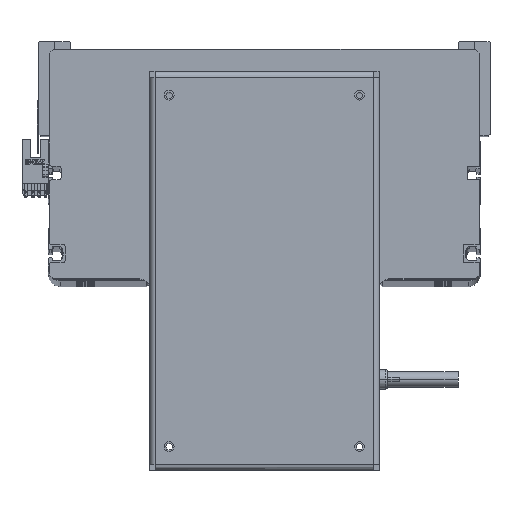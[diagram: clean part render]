
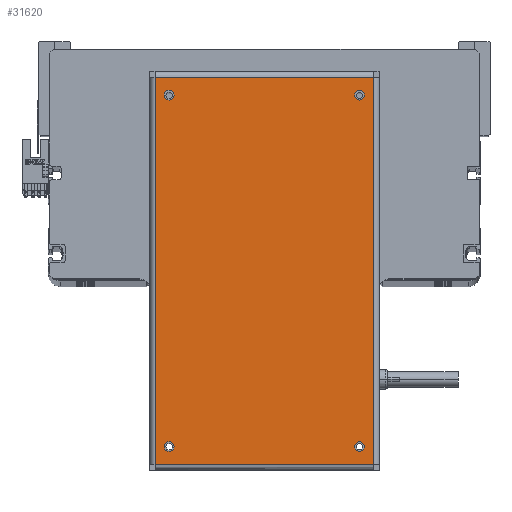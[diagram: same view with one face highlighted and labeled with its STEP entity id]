
A CAD part, top view. The second image highlights one B-rep face of the part: STEP entity #31620.
In plain terms, the highlighted planar face has unit normal (0, 0, 1).
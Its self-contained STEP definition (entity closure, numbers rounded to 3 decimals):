
#58 = DIRECTION ( 'NONE',  ( 0., 1., 0. ) ) ;
#434 = CARTESIAN_POINT ( 'NONE',  ( 87.05, -48.5, 0. ) ) ;
#826 = ORIENTED_EDGE ( 'NONE', *, *, #41818, .F. ) ;
#1292 = ORIENTED_EDGE ( 'NONE', *, *, #24509, .F. ) ;
#1419 = CARTESIAN_POINT ( 'NONE',  ( -89.55, -48.5, 0. ) ) ;
#1562 = AXIS2_PLACEMENT_3D ( 'NONE', #1419, #34039, #37380 ) ;
#1739 = CIRCLE ( 'NONE', #37982, 2.5 ) ;
#2236 = EDGE_CURVE ( 'NONE', #5288, #4017, #30035, .T. ) ;
#2973 = LINE ( 'NONE', #6407, #17988 ) ;
#3416 = CARTESIAN_POINT ( 'NONE',  ( 92.05, 48.5, 0. ) ) ;
#3631 = CARTESIAN_POINT ( 'NONE',  ( -98.65, 55.6, 0. ) ) ;
#3699 = VECTOR ( 'NONE', #8705, 1000. ) ;
#3783 = FACE_OUTER_BOUND ( 'NONE', #30748, .T. ) ;
#3828 = ORIENTED_EDGE ( 'NONE', *, *, #5207, .T. ) ;
#4017 = VERTEX_POINT ( 'NONE', #3631 ) ;
#4029 = LINE ( 'NONE', #38768, #34510 ) ;
#4253 = AXIS2_PLACEMENT_3D ( 'NONE', #8735, #31843, #12062 ) ;
#5207 = EDGE_CURVE ( 'NONE', #4017, #18280, #4029, .T. ) ;
#5227 = EDGE_CURVE ( 'NONE', #10190, #17603, #42252, .T. ) ;
#5288 = VERTEX_POINT ( 'NONE', #13212 ) ;
#6128 = DIRECTION ( 'NONE',  ( 1., 0., 0. ) ) ;
#6379 = CIRCLE ( 'NONE', #11843, 2.5 ) ;
#6407 = CARTESIAN_POINT ( 'NONE',  ( 98.65, -55.6, 0. ) ) ;
#6669 = VERTEX_POINT ( 'NONE', #434 ) ;
#6877 = FACE_BOUND ( 'NONE', #16678, .T. ) ;
#7130 = DIRECTION ( 'NONE',  ( 1., 0., 0. ) ) ;
#7905 = FACE_BOUND ( 'NONE', #11321, .T. ) ;
#8242 = VERTEX_POINT ( 'NONE', #22039 ) ;
#8348 = VERTEX_POINT ( 'NONE', #15300 ) ;
#8705 = DIRECTION ( 'NONE',  ( -1., 0., 0. ) ) ;
#8735 = CARTESIAN_POINT ( 'NONE',  ( 89.55, 48.5, 0. ) ) ;
#10190 = VERTEX_POINT ( 'NONE', #3416 ) ;
#11321 = EDGE_LOOP ( 'NONE', ( #16529, #1292 ) ) ;
#11843 = AXIS2_PLACEMENT_3D ( 'NONE', #16327, #29607, #36393 ) ;
#12062 = DIRECTION ( 'NONE',  ( 1., 0., 0. ) ) ;
#12592 = FACE_BOUND ( 'NONE', #19089, .T. ) ;
#13201 = DIRECTION ( 'NONE',  ( 1., 0., 0. ) ) ;
#13212 = CARTESIAN_POINT ( 'NONE',  ( 98.65, 55.6, 0. ) ) ;
#13325 = VECTOR ( 'NONE', #24308, 1000. ) ;
#13742 = EDGE_CURVE ( 'NONE', #26692, #14220, #6379, .T. ) ;
#14220 = VERTEX_POINT ( 'NONE', #23024 ) ;
#14739 = DIRECTION ( 'NONE',  ( -1., 0., 0. ) ) ;
#14810 = CARTESIAN_POINT ( 'NONE',  ( -92.05, -48.5, 0. ) ) ;
#15300 = CARTESIAN_POINT ( 'NONE',  ( -87.05, 48.5, 0. ) ) ;
#16095 = DIRECTION ( 'NONE',  ( 0., 0., 1. ) ) ;
#16327 = CARTESIAN_POINT ( 'NONE',  ( -89.55, -48.5, 0. ) ) ;
#16529 = ORIENTED_EDGE ( 'NONE', *, *, #31857, .F. ) ;
#16657 = DIRECTION ( 'NONE',  ( 0., 0., 1. ) ) ;
#16678 = EDGE_LOOP ( 'NONE', ( #19351, #38765 ) ) ;
#16732 = VERTEX_POINT ( 'NONE', #28086 ) ;
#16971 = DIRECTION ( 'NONE',  ( 0., 0., 1. ) ) ;
#17603 = VERTEX_POINT ( 'NONE', #42184 ) ;
#17988 = VECTOR ( 'NONE', #58, 1000. ) ;
#18280 = VERTEX_POINT ( 'NONE', #26064 ) ;
#19089 = EDGE_LOOP ( 'NONE', ( #37673, #24178 ) ) ;
#19351 = ORIENTED_EDGE ( 'NONE', *, *, #5227, .F. ) ;
#21913 = EDGE_CURVE ( 'NONE', #18280, #26126, #24597, .T. ) ;
#21967 = DIRECTION ( 'NONE',  ( 0., 0., 1. ) ) ;
#22039 = CARTESIAN_POINT ( 'NONE',  ( 92.05, -48.5, 0. ) ) ;
#22618 = CIRCLE ( 'NONE', #1562, 2.5 ) ;
#23024 = CARTESIAN_POINT ( 'NONE',  ( -87.05, -48.5, 0. ) ) ;
#24178 = ORIENTED_EDGE ( 'NONE', *, *, #39374, .F. ) ;
#24308 = DIRECTION ( 'NONE',  ( 1., 0., 0. ) ) ;
#24318 = CIRCLE ( 'NONE', #36912, 2.5 ) ;
#24397 = AXIS2_PLACEMENT_3D ( 'NONE', #37841, #41126, #14739 ) ;
#24509 = EDGE_CURVE ( 'NONE', #6669, #8242, #1739, .T. ) ;
#24597 = LINE ( 'NONE', #34026, #13325 ) ;
#24892 = CIRCLE ( 'NONE', #42406, 2.5 ) ;
#25282 = CARTESIAN_POINT ( 'NONE',  ( 89.55, 48.5, 0. ) ) ;
#25665 = EDGE_CURVE ( 'NONE', #8348, #16732, #24318, .T. ) ;
#25959 = ORIENTED_EDGE ( 'NONE', *, *, #21913, .T. ) ;
#26064 = CARTESIAN_POINT ( 'NONE',  ( -98.65, -55.6, 0. ) ) ;
#26126 = VERTEX_POINT ( 'NONE', #35056 ) ;
#26439 = CARTESIAN_POINT ( 'NONE',  ( -89.55, 48.5, 0. ) ) ;
#26692 = VERTEX_POINT ( 'NONE', #14810 ) ;
#27007 = CIRCLE ( 'NONE', #34951, 2.5 ) ;
#28086 = CARTESIAN_POINT ( 'NONE',  ( -92.05, 48.5, 0. ) ) ;
#28457 = CARTESIAN_POINT ( 'NONE',  ( 98.75, 55.6, 0. ) ) ;
#28927 = DIRECTION ( 'NONE',  ( 1., 0., 0. ) ) ;
#29607 = DIRECTION ( 'NONE',  ( 0., 0., 1. ) ) ;
#30035 = LINE ( 'NONE', #28457, #3699 ) ;
#30127 = FACE_BOUND ( 'NONE', #30706, .T. ) ;
#30159 = ORIENTED_EDGE ( 'NONE', *, *, #13742, .F. ) ;
#30272 = AXIS2_PLACEMENT_3D ( 'NONE', #33829, #16971, #7130 ) ;
#30706 = EDGE_LOOP ( 'NONE', ( #826, #30159 ) ) ;
#30748 = EDGE_LOOP ( 'NONE', ( #3828, #25959, #32194, #39217 ) ) ;
#31336 = PLANE ( 'NONE',  #24397 ) ;
#31620 = ADVANCED_FACE ( 'NONE', ( #30127, #12592, #7905, #6877, #3783 ), #31336, .F. ) ;
#31843 = DIRECTION ( 'NONE',  ( 0., 0., 1. ) ) ;
#31845 = DIRECTION ( 'NONE',  ( 0., 0., 1. ) ) ;
#31857 = EDGE_CURVE ( 'NONE', #8242, #6669, #35768, .T. ) ;
#32194 = ORIENTED_EDGE ( 'NONE', *, *, #35911, .T. ) ;
#33829 = CARTESIAN_POINT ( 'NONE',  ( 89.55, -48.5, 0. ) ) ;
#34026 = CARTESIAN_POINT ( 'NONE',  ( -98.75, -55.6, 0. ) ) ;
#34039 = DIRECTION ( 'NONE',  ( 0., 0., 1. ) ) ;
#34510 = VECTOR ( 'NONE', #42068, 1000. ) ;
#34951 = AXIS2_PLACEMENT_3D ( 'NONE', #42207, #31845, #38620 ) ;
#35056 = CARTESIAN_POINT ( 'NONE',  ( 98.65, -55.6, 0. ) ) ;
#35735 = CARTESIAN_POINT ( 'NONE',  ( 89.55, -48.5, 0. ) ) ;
#35768 = CIRCLE ( 'NONE', #30272, 2.5 ) ;
#35911 = EDGE_CURVE ( 'NONE', #26126, #5288, #2973, .T. ) ;
#36393 = DIRECTION ( 'NONE',  ( 1., 0., 0. ) ) ;
#36912 = AXIS2_PLACEMENT_3D ( 'NONE', #26439, #16657, #13201 ) ;
#37380 = DIRECTION ( 'NONE',  ( 1., 0., 0. ) ) ;
#37673 = ORIENTED_EDGE ( 'NONE', *, *, #25665, .F. ) ;
#37841 = CARTESIAN_POINT ( 'NONE',  ( 98.75, 58.5, 0. ) ) ;
#37982 = AXIS2_PLACEMENT_3D ( 'NONE', #35735, #21967, #28927 ) ;
#38620 = DIRECTION ( 'NONE',  ( 1., 0., 0. ) ) ;
#38765 = ORIENTED_EDGE ( 'NONE', *, *, #39454, .F. ) ;
#38768 = CARTESIAN_POINT ( 'NONE',  ( -98.65, 55.6, 0. ) ) ;
#39217 = ORIENTED_EDGE ( 'NONE', *, *, #2236, .T. ) ;
#39374 = EDGE_CURVE ( 'NONE', #16732, #8348, #27007, .T. ) ;
#39454 = EDGE_CURVE ( 'NONE', #17603, #10190, #24892, .T. ) ;
#41126 = DIRECTION ( 'NONE',  ( 0., 0., -1. ) ) ;
#41818 = EDGE_CURVE ( 'NONE', #14220, #26692, #22618, .T. ) ;
#42068 = DIRECTION ( 'NONE',  ( 0., -1., 0. ) ) ;
#42184 = CARTESIAN_POINT ( 'NONE',  ( 87.05, 48.5, 0. ) ) ;
#42207 = CARTESIAN_POINT ( 'NONE',  ( -89.55, 48.5, 0. ) ) ;
#42252 = CIRCLE ( 'NONE', #4253, 2.5 ) ;
#42406 = AXIS2_PLACEMENT_3D ( 'NONE', #25282, #16095, #6128 ) ;
